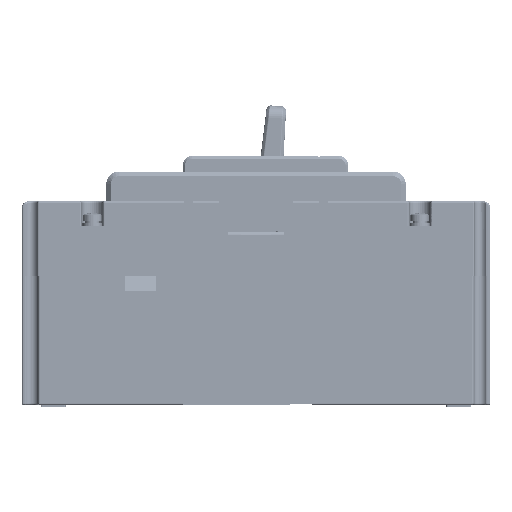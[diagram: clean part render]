
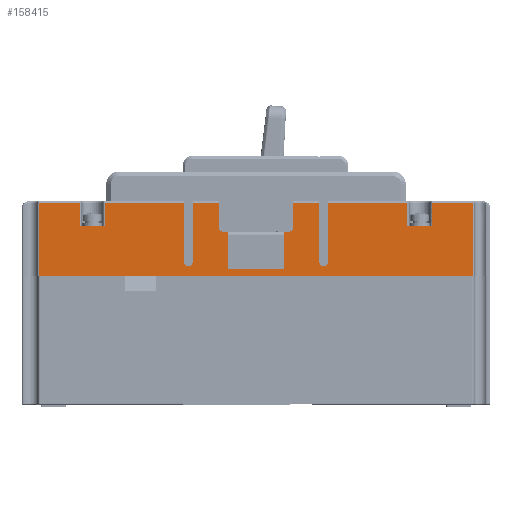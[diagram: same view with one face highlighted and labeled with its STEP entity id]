
A CAD part, left-side view. The second image highlights one B-rep face of the part: STEP entity #158415.
In plain terms, the highlighted planar face has unit normal (-1, 0, 0).
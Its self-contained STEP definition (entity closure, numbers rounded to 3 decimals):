
#125920=DIRECTION('',(0.,-1.,0.));
#125921=VECTOR('',#125920,8.);
#125922=CARTESIAN_POINT('',(-46.,56.5,16.));
#125923=LINE('',#125922,#125921);
#125924=CARTESIAN_POINT('',(-46.,21.7,4.5));
#125925=DIRECTION('',(-1.,0.,0.));
#125926=DIRECTION('',(0.,1.,0.));
#125927=AXIS2_PLACEMENT_3D('',#125924,#125925,#125926);
#125929=DIRECTION('',(0.,0.,1.));
#125930=VECTOR('',#125929,18.8);
#125931=CARTESIAN_POINT('',(-46.,20.2,4.5));
#125932=LINE('',#125931,#125930);
#125933=CARTESIAN_POINT('',(-46.,10.5,15.5));
#125934=DIRECTION('',(-1.,0.,0.));
#125935=DIRECTION('',(0.,1.,0.));
#125936=AXIS2_PLACEMENT_3D('',#125933,#125934,#125935);
#125938=DIRECTION('',(0.,-1.,0.));
#125939=VECTOR('',#125938,1.6);
#125940=CARTESIAN_POINT('',(-46.,10.5,14.));
#125941=LINE('',#125940,#125939);
#125942=DIRECTION('',(0.,0.,-1.));
#125943=VECTOR('',#125942,12.);
#125944=CARTESIAN_POINT('',(-46.,8.9,14.));
#125945=LINE('',#125944,#125943);
#125946=DIRECTION('',(0.,-1.,0.));
#125947=VECTOR('',#125946,17.8);
#125948=CARTESIAN_POINT('',(-46.,8.9,2.));
#125949=LINE('',#125948,#125947);
#125950=DIRECTION('',(0.,-1.,0.));
#125951=VECTOR('',#125950,1.6);
#125952=CARTESIAN_POINT('',(-46.,-8.9,14.));
#125953=LINE('',#125952,#125951);
#125954=CARTESIAN_POINT('',(-46.,-10.5,15.5));
#125955=DIRECTION('',(-1.,0.,0.));
#125956=DIRECTION('',(0.,0.,-1.));
#125957=AXIS2_PLACEMENT_3D('',#125954,#125955,#125956);
#125959=DIRECTION('',(0.,0.,1.));
#125960=VECTOR('',#125959,7.8);
#125961=CARTESIAN_POINT('',(-46.,-12.,15.5));
#125962=LINE('',#125961,#125960);
#125963=CARTESIAN_POINT('',(-46.,-21.7,4.5));
#125964=DIRECTION('',(-1.,0.,0.));
#125965=DIRECTION('',(0.,1.,0.));
#125966=AXIS2_PLACEMENT_3D('',#125963,#125964,#125965);
#125968=DIRECTION('',(0.,0.,1.));
#125969=VECTOR('',#125968,18.8);
#125970=CARTESIAN_POINT('',(-46.,-23.2,4.5));
#125971=LINE('',#125970,#125969);
#125972=DIRECTION('',(0.,-1.,0.));
#125973=VECTOR('',#125972,8.);
#125974=CARTESIAN_POINT('',(-46.,-48.5,16.));
#125975=LINE('',#125974,#125973);
#126271=DIRECTION('',(0.,-1.,0.));
#126272=VECTOR('',#126271,139.101);
#126273=CARTESIAN_POINT('',(-46.,69.551,0.));
#126274=LINE('',#126273,#126272);
#134802=DIRECTION('',(0.,0.,-1.));
#134803=VECTOR('',#134802,23.3);
#134804=CARTESIAN_POINT('',(-46.,69.551,23.3));
#134805=LINE('',#134804,#134803);
#139719=DIRECTION('',(0.,0.,1.));
#139720=VECTOR('',#139719,7.8);
#139721=CARTESIAN_POINT('',(-46.,12.,15.5));
#139722=LINE('',#139721,#139720);
#139728=DIRECTION('',(0.,1.,0.));
#139729=VECTOR('',#139728,8.2);
#139730=CARTESIAN_POINT('',(-46.,12.,23.3));
#139731=LINE('',#139730,#139729);
#139758=DIRECTION('',(0.,0.,1.));
#139759=VECTOR('',#139758,18.8);
#139760=CARTESIAN_POINT('',(-46.,23.2,4.5));
#139761=LINE('',#139760,#139759);
#139762=DIRECTION('',(0.,1.,0.));
#139763=VECTOR('',#139762,25.3);
#139764=CARTESIAN_POINT('',(-46.,23.2,23.3));
#139765=LINE('',#139764,#139763);
#139785=DIRECTION('',(0.,0.,-1.));
#139786=VECTOR('',#139785,7.3);
#139787=CARTESIAN_POINT('',(-46.,48.5,23.3));
#139788=LINE('',#139787,#139786);
#139904=DIRECTION('',(0.,0.,1.));
#139905=VECTOR('',#139904,7.3);
#139906=CARTESIAN_POINT('',(-46.,56.5,16.));
#139907=LINE('',#139906,#139905);
#139912=DIRECTION('',(0.,1.,0.));
#139913=VECTOR('',#139912,13.051);
#139914=CARTESIAN_POINT('',(-46.,56.5,23.3));
#139915=LINE('',#139914,#139913);
#139980=DIRECTION('',(0.,1.,0.));
#139981=VECTOR('',#139980,8.2);
#139982=CARTESIAN_POINT('',(-46.,-20.2,23.3));
#139983=LINE('',#139982,#139981);
#139993=DIRECTION('',(0.,0.,1.));
#139994=VECTOR('',#139993,18.8);
#139995=CARTESIAN_POINT('',(-46.,-20.2,4.5));
#139996=LINE('',#139995,#139994);
#140023=DIRECTION('',(0.,1.,0.));
#140024=VECTOR('',#140023,25.3);
#140025=CARTESIAN_POINT('',(-46.,-48.5,23.3));
#140026=LINE('',#140025,#140024);
#140046=DIRECTION('',(0.,0.,1.));
#140047=VECTOR('',#140046,7.3);
#140048=CARTESIAN_POINT('',(-46.,-48.5,16.));
#140049=LINE('',#140048,#140047);
#140109=DIRECTION('',(0.,0.,-1.));
#140110=VECTOR('',#140109,7.3);
#140111=CARTESIAN_POINT('',(-46.,-56.5,23.3));
#140112=LINE('',#140111,#140110);
#140206=DIRECTION('',(0.,1.,0.));
#140207=VECTOR('',#140206,13.051);
#140208=CARTESIAN_POINT('',(-46.,-69.551,23.3));
#140209=LINE('',#140208,#140207);
#140233=DIRECTION('',(0.,0.,1.));
#140234=VECTOR('',#140233,23.3);
#140235=CARTESIAN_POINT('',(-46.,-69.551,0.));
#140236=LINE('',#140235,#140234);
#143077=DIRECTION('',(0.,0.,-1.));
#143078=VECTOR('',#143077,12.);
#143079=CARTESIAN_POINT('',(-46.,-8.9,14.));
#143080=LINE('',#143079,#143078);
#151388=CARTESIAN_POINT('',(-46.,69.551,0.));
#151389=CARTESIAN_POINT('',(-46.,-69.551,0.));
#151390=VERTEX_POINT('',#151388);
#151391=VERTEX_POINT('',#151389);
#151392=CARTESIAN_POINT('',(-46.,69.551,23.3));
#151393=VERTEX_POINT('',#151392);
#151394=CARTESIAN_POINT('',(-46.,56.5,23.3));
#151395=VERTEX_POINT('',#151394);
#151396=CARTESIAN_POINT('',(-46.,56.5,16.));
#151397=VERTEX_POINT('',#151396);
#151398=CARTESIAN_POINT('',(-46.,48.5,16.));
#151399=VERTEX_POINT('',#151398);
#151400=CARTESIAN_POINT('',(-46.,48.5,23.3));
#151401=VERTEX_POINT('',#151400);
#151402=CARTESIAN_POINT('',(-46.,23.2,23.3));
#151403=VERTEX_POINT('',#151402);
#151404=CARTESIAN_POINT('',(-46.,23.2,4.5));
#151405=VERTEX_POINT('',#151404);
#151406=CARTESIAN_POINT('',(-46.,20.2,4.5));
#151407=VERTEX_POINT('',#151406);
#151408=CARTESIAN_POINT('',(-46.,20.2,23.3));
#151409=VERTEX_POINT('',#151408);
#151410=CARTESIAN_POINT('',(-46.,12.,23.3));
#151411=VERTEX_POINT('',#151410);
#151412=CARTESIAN_POINT('',(-46.,12.,15.5));
#151413=VERTEX_POINT('',#151412);
#151414=CARTESIAN_POINT('',(-46.,10.5,14.));
#151415=VERTEX_POINT('',#151414);
#151416=CARTESIAN_POINT('',(-46.,8.9,14.));
#151417=VERTEX_POINT('',#151416);
#151418=CARTESIAN_POINT('',(-46.,8.9,2.));
#151419=VERTEX_POINT('',#151418);
#151420=CARTESIAN_POINT('',(-46.,-8.9,2.));
#151421=VERTEX_POINT('',#151420);
#151422=CARTESIAN_POINT('',(-46.,-8.9,14.));
#151423=VERTEX_POINT('',#151422);
#151424=CARTESIAN_POINT('',(-46.,-10.5,14.));
#151425=VERTEX_POINT('',#151424);
#151426=CARTESIAN_POINT('',(-46.,-12.,15.5));
#151427=VERTEX_POINT('',#151426);
#151428=CARTESIAN_POINT('',(-46.,-12.,23.3));
#151429=VERTEX_POINT('',#151428);
#151430=CARTESIAN_POINT('',(-46.,-20.2,23.3));
#151431=VERTEX_POINT('',#151430);
#151432=CARTESIAN_POINT('',(-46.,-20.2,4.5));
#151433=VERTEX_POINT('',#151432);
#151434=CARTESIAN_POINT('',(-46.,-23.2,4.5));
#151435=VERTEX_POINT('',#151434);
#151436=CARTESIAN_POINT('',(-46.,-23.2,23.3));
#151437=VERTEX_POINT('',#151436);
#151438=CARTESIAN_POINT('',(-46.,-48.5,23.3));
#151439=VERTEX_POINT('',#151438);
#151440=CARTESIAN_POINT('',(-46.,-48.5,16.));
#151441=VERTEX_POINT('',#151440);
#151442=CARTESIAN_POINT('',(-46.,-56.5,16.));
#151443=VERTEX_POINT('',#151442);
#151444=CARTESIAN_POINT('',(-46.,-56.5,23.3));
#151445=VERTEX_POINT('',#151444);
#151446=CARTESIAN_POINT('',(-46.,-69.551,23.3));
#151447=VERTEX_POINT('',#151446);
#158348=CARTESIAN_POINT('',(-46.,75.,0.));
#158349=DIRECTION('',(-1.,0.,0.));
#158350=DIRECTION('',(0.,-1.,0.));
#158351=AXIS2_PLACEMENT_3D('',#158348,#158349,#158350);
#158352=PLANE('',#158351);
#158354=ORIENTED_EDGE('',*,*,#158353,.F.);
#158356=ORIENTED_EDGE('',*,*,#158355,.F.);
#158358=ORIENTED_EDGE('',*,*,#158357,.F.);
#158360=ORIENTED_EDGE('',*,*,#158359,.F.);
#158362=ORIENTED_EDGE('',*,*,#158361,.T.);
#158364=ORIENTED_EDGE('',*,*,#158363,.F.);
#158366=ORIENTED_EDGE('',*,*,#158365,.F.);
#158368=ORIENTED_EDGE('',*,*,#158367,.F.);
#158370=ORIENTED_EDGE('',*,*,#158369,.T.);
#158372=ORIENTED_EDGE('',*,*,#158371,.T.);
#158374=ORIENTED_EDGE('',*,*,#158373,.F.);
#158376=ORIENTED_EDGE('',*,*,#158375,.F.);
#158378=ORIENTED_EDGE('',*,*,#158377,.T.);
#158380=ORIENTED_EDGE('',*,*,#158379,.T.);
#158382=ORIENTED_EDGE('',*,*,#158381,.T.);
#158384=ORIENTED_EDGE('',*,*,#158383,.T.);
#158386=ORIENTED_EDGE('',*,*,#158385,.F.);
#158388=ORIENTED_EDGE('',*,*,#158387,.T.);
#158390=ORIENTED_EDGE('',*,*,#158389,.T.);
#158392=ORIENTED_EDGE('',*,*,#158391,.T.);
#158394=ORIENTED_EDGE('',*,*,#158393,.F.);
#158396=ORIENTED_EDGE('',*,*,#158395,.F.);
#158398=ORIENTED_EDGE('',*,*,#158397,.T.);
#158400=ORIENTED_EDGE('',*,*,#158399,.T.);
#158402=ORIENTED_EDGE('',*,*,#158401,.F.);
#158404=ORIENTED_EDGE('',*,*,#158403,.F.);
#158406=ORIENTED_EDGE('',*,*,#158405,.T.);
#158408=ORIENTED_EDGE('',*,*,#158407,.F.);
#158410=ORIENTED_EDGE('',*,*,#158409,.F.);
#158412=ORIENTED_EDGE('',*,*,#158411,.F.);
#158413=EDGE_LOOP('',(#158354,#158356,#158358,#158360,#158362,#158364,#158366,
#158368,#158370,#158372,#158374,#158376,#158378,#158380,#158382,#158384,#158386,
#158388,#158390,#158392,#158394,#158396,#158398,#158400,#158402,#158404,#158406,
#158408,#158410,#158412));
#158414=FACE_OUTER_BOUND('',#158413,.F.);
#158415=ADVANCED_FACE('',(#158414),#158352,.T.);
#125928=CIRCLE('',#125927,1.5);
#125937=CIRCLE('',#125936,1.5);
#125958=CIRCLE('',#125957,1.5);
#125967=CIRCLE('',#125966,1.5);
#158353=EDGE_CURVE('',#151390,#151391,#126274,.T.);
#158355=EDGE_CURVE('',#151393,#151390,#134805,.T.);
#158357=EDGE_CURVE('',#151395,#151393,#139915,.T.);
#158359=EDGE_CURVE('',#151397,#151395,#139907,.T.);
#158361=EDGE_CURVE('',#151397,#151399,#125923,.T.);
#158363=EDGE_CURVE('',#151401,#151399,#139788,.T.);
#158365=EDGE_CURVE('',#151403,#151401,#139765,.T.);
#158367=EDGE_CURVE('',#151405,#151403,#139761,.T.);
#158369=EDGE_CURVE('',#151405,#151407,#125928,.T.);
#158371=EDGE_CURVE('',#151407,#151409,#125932,.T.);
#158373=EDGE_CURVE('',#151411,#151409,#139731,.T.);
#158375=EDGE_CURVE('',#151413,#151411,#139722,.T.);
#158377=EDGE_CURVE('',#151413,#151415,#125937,.T.);
#158379=EDGE_CURVE('',#151415,#151417,#125941,.T.);
#158381=EDGE_CURVE('',#151417,#151419,#125945,.T.);
#158383=EDGE_CURVE('',#151419,#151421,#125949,.T.);
#158385=EDGE_CURVE('',#151423,#151421,#143080,.T.);
#158387=EDGE_CURVE('',#151423,#151425,#125953,.T.);
#158389=EDGE_CURVE('',#151425,#151427,#125958,.T.);
#158391=EDGE_CURVE('',#151427,#151429,#125962,.T.);
#158393=EDGE_CURVE('',#151431,#151429,#139983,.T.);
#158395=EDGE_CURVE('',#151433,#151431,#139996,.T.);
#158397=EDGE_CURVE('',#151433,#151435,#125967,.T.);
#158399=EDGE_CURVE('',#151435,#151437,#125971,.T.);
#158401=EDGE_CURVE('',#151439,#151437,#140026,.T.);
#158403=EDGE_CURVE('',#151441,#151439,#140049,.T.);
#158405=EDGE_CURVE('',#151441,#151443,#125975,.T.);
#158407=EDGE_CURVE('',#151445,#151443,#140112,.T.);
#158409=EDGE_CURVE('',#151447,#151445,#140209,.T.);
#158411=EDGE_CURVE('',#151391,#151447,#140236,.T.);
